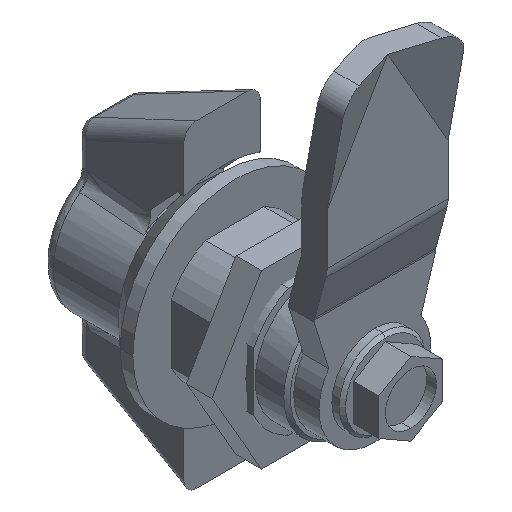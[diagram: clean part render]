
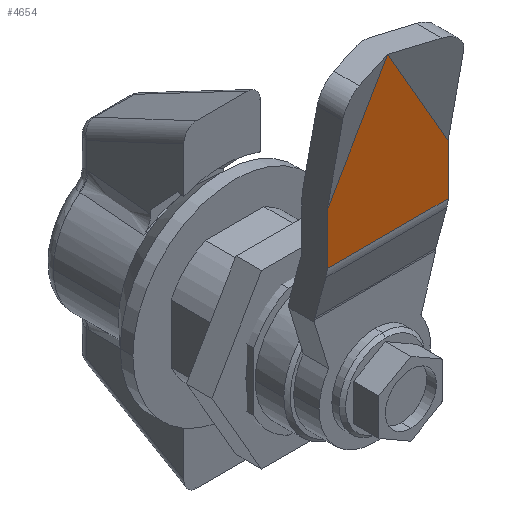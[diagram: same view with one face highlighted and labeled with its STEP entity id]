
A CAD part, isometric view. The second image highlights one B-rep face of the part: STEP entity #4654.
In plain terms, the highlighted planar face has unit normal (0, -1, 0).
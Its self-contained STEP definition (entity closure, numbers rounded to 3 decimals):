
#133 = LINE ( 'NONE', #3447, #493 ) ;
#239 = CARTESIAN_POINT ( 'NONE',  ( -20.5, -2., -9.5 ) ) ;
#271 = EDGE_CURVE ( 'NONE', #2824, #2978, #3993, .T. ) ;
#450 = CARTESIAN_POINT ( 'NONE',  ( -28.546, -2., -9.5 ) ) ;
#493 = VECTOR ( 'NONE', #4855, 1000. ) ;
#631 = CARTESIAN_POINT ( 'NONE',  ( -20.636, -2., -9.5 ) ) ;
#953 = CARTESIAN_POINT ( 'NONE',  ( -45., -2., 0. ) ) ;
#1199 = ORIENTED_EDGE ( 'NONE', *, *, #1327, .T. ) ;
#1236 = CARTESIAN_POINT ( 'NONE',  ( -28.546, -2., 9.5 ) ) ;
#1327 = EDGE_CURVE ( 'NONE', #2978, #4667, #133, .T. ) ;
#1354 = VECTOR ( 'NONE', #5438, 1000. ) ;
#1375 = CARTESIAN_POINT ( 'NONE',  ( -20.636, -2., 9.5 ) ) ;
#1403 = FACE_OUTER_BOUND ( 'NONE', #3850, .T. ) ;
#1643 = DIRECTION ( 'NONE',  ( 1., 0., 0. ) ) ;
#1781 = VERTEX_POINT ( 'NONE', #631 ) ;
#1910 = CARTESIAN_POINT ( 'NONE',  ( -20.5, -2., 9.5 ) ) ;
#2405 = LINE ( 'NONE', #1910, #3244 ) ;
#2712 = PLANE ( 'NONE',  #4536 ) ;
#2765 = VECTOR ( 'NONE', #1643, 1000. ) ;
#2805 = CARTESIAN_POINT ( 'NONE',  ( -20.5, -2., 19.301 ) ) ;
#2824 = VERTEX_POINT ( 'NONE', #1236 ) ;
#2978 = VERTEX_POINT ( 'NONE', #953 ) ;
#3002 = VERTEX_POINT ( 'NONE', #1375 ) ;
#3187 = DIRECTION ( 'NONE',  ( 0., 0., 1. ) ) ;
#3197 = EDGE_CURVE ( 'NONE', #2824, #3002, #2405, .T. ) ;
#3244 = VECTOR ( 'NONE', #3326, 1000. ) ;
#3272 = VECTOR ( 'NONE', #5348, 1000. ) ;
#3326 = DIRECTION ( 'NONE',  ( 1., 0., 0. ) ) ;
#3447 = CARTESIAN_POINT ( 'NONE',  ( -11.25, -2., -19.486 ) ) ;
#3850 = EDGE_LOOP ( 'NONE', ( #5912, #4502, #5780, #5922, #1199 ) ) ;
#3993 = LINE ( 'NONE', #5928, #1354 ) ;
#4471 = LINE ( 'NONE', #239, #2765 ) ;
#4502 = ORIENTED_EDGE ( 'NONE', *, *, #5459, .T. ) ;
#4536 = AXIS2_PLACEMENT_3D ( 'NONE', #2805, #5117, #3187 ) ;
#4654 = ADVANCED_FACE ( 'NONE', ( #1403 ), #2712, .F. ) ;
#4667 = VERTEX_POINT ( 'NONE', #450 ) ;
#4816 = EDGE_CURVE ( 'NONE', #4667, #1781, #4471, .T. ) ;
#4855 = DIRECTION ( 'NONE',  ( 0.866, 0., -0.5 ) ) ;
#5117 = DIRECTION ( 'NONE',  ( 0., 1., 0. ) ) ;
#5348 = DIRECTION ( 'NONE',  ( 0., 0., 1. ) ) ;
#5374 = LINE ( 'NONE', #5774, #3272 ) ;
#5438 = DIRECTION ( 'NONE',  ( -0.866, 0., -0.5 ) ) ;
#5459 = EDGE_CURVE ( 'NONE', #1781, #3002, #5374, .T. ) ;
#5774 = CARTESIAN_POINT ( 'NONE',  ( -20.636, -2., 19.301 ) ) ;
#5780 = ORIENTED_EDGE ( 'NONE', *, *, #3197, .F. ) ;
#5912 = ORIENTED_EDGE ( 'NONE', *, *, #4816, .T. ) ;
#5922 = ORIENTED_EDGE ( 'NONE', *, *, #271, .T. ) ;
#5928 = CARTESIAN_POINT ( 'NONE',  ( -11.25, -2., 19.486 ) ) ;
